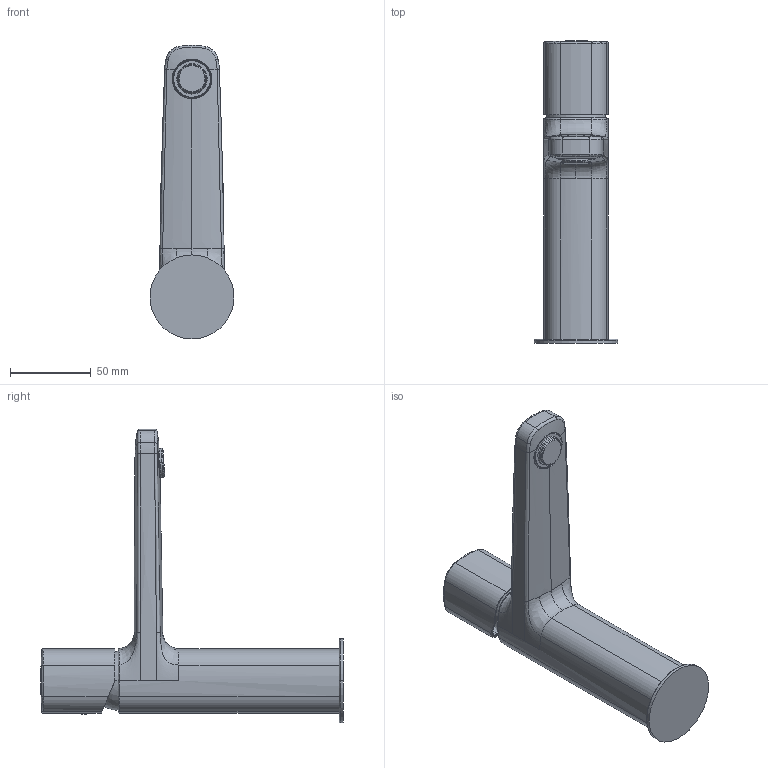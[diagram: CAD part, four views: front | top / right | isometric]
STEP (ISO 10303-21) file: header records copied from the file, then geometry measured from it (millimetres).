
FILE_DESCRIPTION((''),'2;1');
FILE_NAME('24000M004WF00000_SW0001','2022-08-02T14:02:47',('Elia'),(''),'CREO PARAMETRIC BY PTC INC, 2021424','CREO PARAMETRIC BY PTC INC, 2021424','');
FILE_SCHEMA(('AUTOMOTIVE_DESIGN { 1 0 10303 214 1 1 1 1 }'));
Length unit declared in the file: millimetre
Products named in the file (1): 24000M004WF00000_SW0001
Bounding box: 52 x 187.4 x 181.91 mm (x, y, z)
Volume: 303583 mm3; surface area: 51574.5 mm2
Topology: 2 solids, 2 shells, 273 faces, 674 edges, 395 vertices
Faces by surface type: bspline 114, cylinder 72, plane 34, torus 25, cone 20, sphere 8
Entity records: 26653 total; most frequent: CARTESIAN_POINT 19218, ORIENTED_EDGE 1322, DIRECTION 753, EDGE_CURVE 661, VERTEX_POINT 395, B_SPLINE_CURVE_WITH_KNOTS 382, AXIS2_PLACEMENT_3D 302, EDGE_LOOP 290
